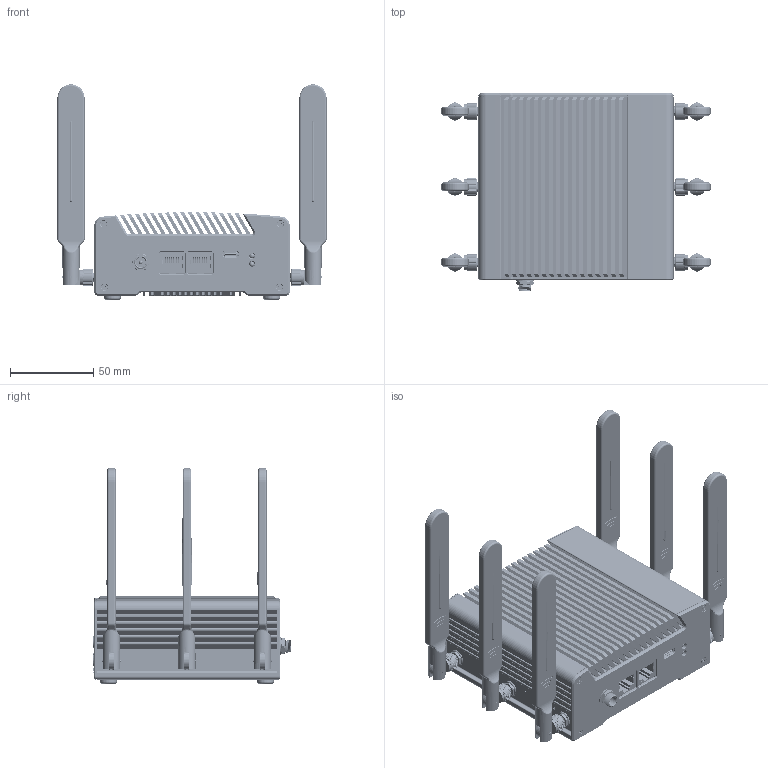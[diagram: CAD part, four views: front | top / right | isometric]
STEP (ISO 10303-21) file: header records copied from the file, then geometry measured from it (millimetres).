
FILE_DESCRIPTION(/* description */ (''),/* implementation_level */ '2;1');
FILE_NAME(/* name */ '20230906-2P',/* time_stamp */ '2023-09-06T19:12:05+08:00',/* author */ (''),/* organization */ (''),/* preprocessor_version */ 'ST-DEVELOPER v9',/* originating_system */ 'EDS PLM SOLUTIONS - UNIGRAPHICS NX 2.0',/* authorisation */ '');
FILE_SCHEMA (('CONFIG_CONTROL_DESIGN'));
Length unit declared in the file: millimetre
Products named in the file (1): huan4FFCjhif
Bounding box: 161.4 x 118.5 x 129.17 mm (x, y, z)
Volume: 407112.3 mm3; surface area: 334366.6 mm2
Topology: 577 solids, 609 shells, 24980 faces, 67877 edges, 44243 vertices
Faces by surface type: plane 15209, cylinder 4757, extrusion 2850, bspline 714, cone 579, sphere 516, torus 355
Full cylindrical faces by diameter (mm): 0.25 x2, 0.376 x2, 0.45 x2, 0.5 x7, 0.518 x2, 0.75 x1, 0.95 x6, 0.991 x2, 1 x21, 1.13 x6, 1.2 x2, 1.26 x2, 1.344 x1, 1.5 x39, 1.6 x38, 1.9 x3, 1.95 x1, 1.97 x1, 2 x172, 2.2 x20, 2.3 x2, 2.5 x9, 2.6 x2, 2.75 x4, 2.85 x6, 2.856 x1, 3 x53, 3.2 x6, 3.3 x2, 3.4 x2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
Entity records: 1041998 total; most frequent: CARTESIAN_POINT 435745, ORIENTED_EDGE 131600, DIRECTION 111268, EDGE_CURVE 65800, VECTOR 48644, LINE 45794, VERTEX_POINT 43613, AXIS2_PLACEMENT_3D 31312
